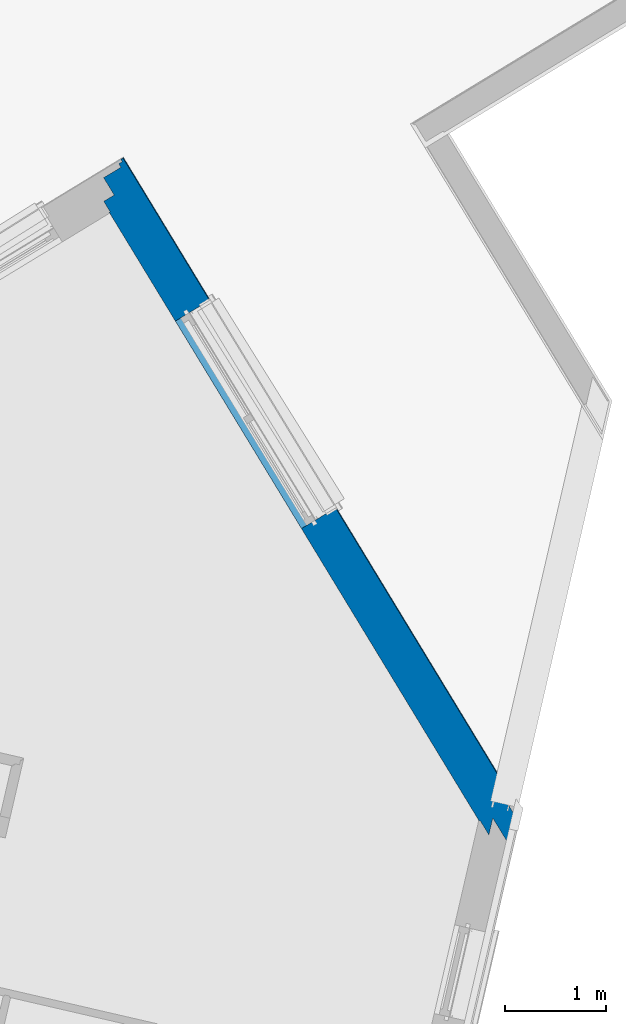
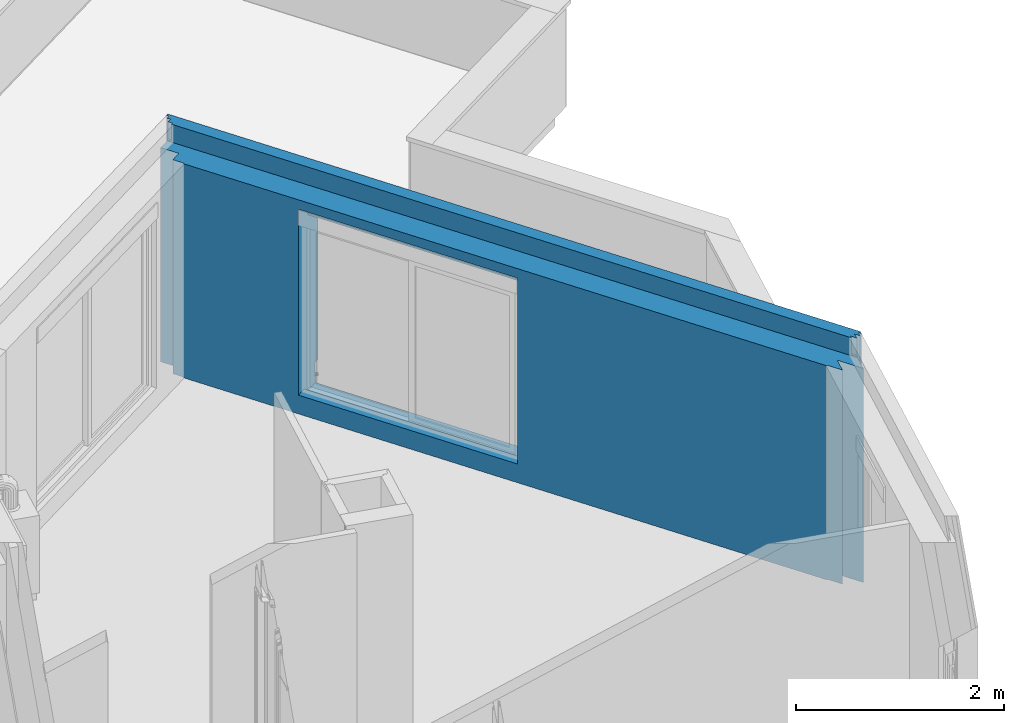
# One storey, part 33 of 91: 1 wall, 1 opening.
"""IFC2X3 building model written with IfcOpenShell, lengths in metres."""

import ifcopenshell
import ifcopenshell.guid

model = None  # the IFC model being written
_history = None  # IfcOwnerHistory: only IFC2X3 demands one
_inside = {}  # id of a spatial element -> (the spatial element, [elements in it])
_under = {}  # id of a project, library or spatial element -> (it, [spatial elements below it])
_declared = {}  # id of a project -> (the project, [libraries it declares])
_typed = {}  # id of a type object -> (the type object, [elements of that type])
_made_of = {}  # id of a material, layer set ... -> (it, [elements and type objects made of it])


def new_model(schema):
    """Start an empty IFC model of exactly this schema.

    Asked for "IFC4X3", IfcOpenShell would pick the latest addendum, in which some entities
    have other attributes; the version numbers below select the first issue.
    IFC2X3 requires an IfcOwnerHistory on every rooted entity: one is made here for all.
    """
    global model, _history
    if schema == "IFC4X3":
        model = ifcopenshell.file(schema_version=(4, 3, 0, 0))
    else:
        model = ifcopenshell.file(schema=schema)
    _inside.clear()
    _under.clear()
    _declared.clear()
    _typed.clear()
    _made_of.clear()
    _history = None
    if model.schema == "IFC2X3":
        org = make("IfcOrganization", Name="unknown")
        user = make(
            "IfcPersonAndOrganization",
            ThePerson=make("IfcPerson", FamilyName="unknown"),
            TheOrganization=org,
        )
        app = make(
            "IfcApplication",
            ApplicationDeveloper=org,
            Version="unknown",
            ApplicationFullName="unknown",
            ApplicationIdentifier="unknown",
        )
        _history = make(
            "IfcOwnerHistory",
            OwningUser=user,
            OwningApplication=app,
            ChangeAction="ADDED",
            CreationDate=0,
        )
    return model


def make(cls, **values):
    """One entity of the class cls with the attributes given. An attribute that is None is left unset."""
    return model.create_entity(
        cls, **{name: value for name, value in values.items() if value is not None}
    )


def entity(cls, *values):
    """Any entity or typed value of the class cls, its attributes in the order of the schema. None: left unset."""
    e = model.create_entity(cls)
    for i, value in enumerate(values):
        if value is not None:
            e[i] = value
    return e


def rooted(cls, **values):
    """An entity with a GlobalId (a new one), such as an element, a storey or a relation."""
    return make(cls, GlobalId=ifcopenshell.guid.new(), OwnerHistory=_history, **values)


def si_unit(unit_type, name, prefix=None):
    """IfcSIUnit, for example si_unit("LENGTHUNIT", "METRE", prefix="MILLI")."""
    return make("IfcSIUnit", UnitType=unit_type, Prefix=prefix, Name=name)


def converted_unit(unit_type, name, factor, base, dimensions=None, offset=None):
    """IfcConversionBasedUnit, such as the inch: factor (a typed value) times the base unit."""
    return make(
        "IfcConversionBasedUnit"
        if offset is None
        else "IfcConversionBasedUnitWithOffset",
        ConversionOffset=offset,
        Dimensions=None
        if dimensions is None
        else entity("IfcDimensionalExponents", *dimensions),
        UnitType=unit_type,
        Name=name,
        ConversionFactor=make(
            "IfcMeasureWithUnit", ValueComponent=factor, UnitComponent=base
        ),
    )


def derived_unit(unit_type, elements):
    """IfcDerivedUnit: a product of units, each with its exponent."""
    return make(
        "IfcDerivedUnit",
        Elements=[
            make("IfcDerivedUnitElement", Unit=unit, Exponent=power)
            for unit, power in elements
        ],
        UnitType=unit_type,
    )


def money_unit(currency):
    """IfcMonetaryUnit."""
    return make("IfcMonetaryUnit", Currency=currency)


def assignment(units):
    """IfcUnitAssignment: the units of a project."""
    return None if units is None else make("IfcUnitAssignment", Units=units)


def point(xyz):
    """IfcCartesianPoint."""
    return None if xyz is None else make("IfcCartesianPoint", Coordinates=xyz)


def direction(xyz):
    """IfcDirection."""
    return None if xyz is None else make("IfcDirection", DirectionRatios=xyz)


def frame(location, z_axis=None, x_axis=None):
    """IfcAxis2Placement3D, a coordinate frame: its origin and axes. An axis left out is left unset."""
    return make(
        "IfcAxis2Placement3D",
        Location=point(location),
        Axis=direction(z_axis),
        RefDirection=direction(x_axis),
    )


def origin_with_axes():
    """The frame at (0, 0, 0) with the z axis (0, 0, 1) and the x axis (1, 0, 0) written out."""
    return frame((0.0, 0.0, 0.0), z_axis=(0.0, 0.0, 1.0), x_axis=(1.0, 0.0, 0.0))


def place(relative_to, where):
    """IfcLocalPlacement: puts the frame where relative to a parent placement (None: the world)."""
    return make(
        "IfcLocalPlacement", PlacementRelTo=relative_to, RelativePlacement=where
    )


def context(
    kind, dimensions, precision=None, world=None, true_north=None, identifier=None
):
    """IfcGeometricRepresentationContext, for example the 3D "Model" context."""
    return make(
        "IfcGeometricRepresentationContext",
        ContextIdentifier=identifier,
        ContextType=kind,
        CoordinateSpaceDimension=dimensions,
        Precision=precision,
        WorldCoordinateSystem=world,
        TrueNorth=true_north,
    )


def subcontext(parent, identifier, kind, view, scale=None):
    """IfcGeometricRepresentationSubContext, for example "Body" below "Model"."""
    return make(
        "IfcGeometricRepresentationSubContext",
        ContextIdentifier=identifier,
        ContextType=kind,
        ParentContext=parent,
        TargetScale=scale,
        TargetView=view,
    )


def project(units=None, contexts=None):
    """IfcProject with its units and contexts."""
    return rooted(
        "IfcProject",
        Name="project",
        RepresentationContexts=contexts,
        UnitsInContext=assignment(units),
    )


def spatial(cls, under=None, at=None, **own):
    """A site, building, storey or space (cls), placed at a placement, below another one or the project."""
    s = rooted(cls, ObjectPlacement=at, **own)
    if under is not None:
        _under.setdefault(under.id(), (under, []))[1].append(s)
    return s


def faces_of(points, faces, orient=None, outer=None):
    """IfcFace entities. A face is a list of loops; a loop is a list of indices into points, from 0.

    orient and outer hold one flag for each loop. By default every Orientation is true, the
    first loop of a face is its IfcFaceOuterBound and the others are IfcFaceBound.
    """
    made = []
    for i, loops in enumerate(faces):
        bounds = []
        for j, loop in enumerate(loops):
            is_outer = j == 0 if outer is None else outer[i][j]
            bounds.append(
                make(
                    "IfcFaceOuterBound" if is_outer else "IfcFaceBound",
                    Bound=make("IfcPolyLoop", Polygon=[points[k] for k in loop]),
                    Orientation=True if orient is None else orient[i][j],
                )
            )
        made.append(make("IfcFace", Bounds=bounds))
    return made


def faceted_brep(points, faces, orient=None, outer=None, voids=None):
    """IfcFacetedBrep: a solid bounded by flat faces; with voids (closed shells), ...WithVoids."""
    shared = [point(p) for p in points]
    hull = make("IfcClosedShell", CfsFaces=faces_of(shared, faces, orient, outer))
    if voids is None:
        return make("IfcFacetedBrep", Outer=hull)
    return make(
        "IfcFacetedBrepWithVoids",
        Outer=hull,
        Voids=[
            make(cls, CfsFaces=faces_of(shared, fs, o, b)) for cls, fs, o, b in voids
        ],
    )


def shape(context_of_items, identifier, shape_type, items):
    """IfcShapeRepresentation: the items that make up one representation, for example the "Body"."""
    return make(
        "IfcShapeRepresentation",
        ContextOfItems=context_of_items,
        RepresentationIdentifier=identifier,
        RepresentationType=shape_type,
        Items=items,
    )


def material(Name=None, Category=None):
    """IfcMaterial."""
    return make("IfcMaterial", Name=Name, Category=Category)


def material_list(materials):
    """IfcMaterialList."""
    return make("IfcMaterialList", Materials=materials)


def made_of(thing, what):
    """Note that an element or type object is made of a material, layer set ...; save() writes the relation."""
    if what is not None:
        _made_of.setdefault(what.id(), (what, []))[1].append(thing)
    return thing


def type_object(cls, material=None, **own):
    """A type object (cls), such as IfcWallType, which elements share."""
    return made_of(rooted(cls, **own), material)


def element(
    cls,
    number,
    at=None,
    inside=None,
    cuts=None,
    type_object=None,
    material=None,
    context=None,
    identifier="Body",
    shape_type=None,
    held_by="IfcProductDefinitionShape",
    body=None,
    shapes=None,
    **own,
):
    """One element of the class cls, such as IfcWall. Its Tag is "e" and its number.

    at: its placement. inside: the storey or other place that contains it. cuts: it is an
    opening in that element (IfcRelVoidsElement). A single representation is given by context,
    identifier, shape_type and body (its items); several are given by shapes. held_by: the class
    of the entity that holds the representations. save() writes the other relations.
    """
    e = rooted(cls, Tag="e%d" % number, ObjectPlacement=at, **own)
    if body is not None:
        shapes = [shape(context, identifier, shape_type, body)]
    if shapes is not None:
        e.Representation = make(held_by, Representations=shapes)
    if inside is not None:
        _inside.setdefault(inside.id(), (inside, []))[1].append(e)
    if cuts is not None:
        rooted(
            "IfcRelVoidsElement", RelatingBuildingElement=cuts, RelatedOpeningElement=e
        )
    if type_object is not None:
        _typed.setdefault(type_object.id(), (type_object, []))[1].append(e)
    return made_of(e, material)


def aggregate(whole, parts):
    """IfcRelAggregates: a whole, such as a stair, and the parts it consists of."""
    return rooted("IfcRelAggregates", RelatingObject=whole, RelatedObjects=parts)


def save(model, path):
    """Write the relations noted so far, then the file.

    IfcRelAggregates (storeys below a building ...), IfcRelContainedInSpatialStructure (elements
    in a storey), IfcRelDefinesByType, IfcRelAssociatesMaterial and IfcRelDeclares: one each for
    every whole, place, type object, material and project.
    """
    for whole, parts in _under.values():
        aggregate(whole, parts)
    for where, things in _inside.values():
        rooted(
            "IfcRelContainedInSpatialStructure",
            RelatedElements=things,
            RelatingStructure=where,
        )
    for kind, things in _typed.values():
        rooted("IfcRelDefinesByType", RelatedObjects=things, RelatingType=kind)
    for what, things in _made_of.values():
        rooted("IfcRelAssociatesMaterial", RelatedObjects=things, RelatingMaterial=what)
    for by, libraries in _declared.values():
        rooted("IfcRelDeclares", RelatingContext=by, RelatedDefinitions=libraries)
    model.write(path)


model = new_model("IFC2X3")

# Units and contexts
model_context = context("Model", 3, precision=1e-05, world=origin_with_axes(), true_north=direction((0.0, 1.0)))
body_context = subcontext(model_context, "Body", "Model", "MODEL_VIEW")
ifc_project = project(units=[si_unit("LENGTHUNIT", "METRE"), si_unit("AREAUNIT", "SQUARE_METRE"), si_unit("VOLUMEUNIT", "CUBIC_METRE"), converted_unit("PLANEANGLEUNIT", "DEGREE", entity("IfcPlaneAngleMeasure", 0.0174532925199), si_unit("PLANEANGLEUNIT", "RADIAN"), dimensions=[0, 0, 0, 0, 0, 0, 0]), si_unit("SOLIDANGLEUNIT", "STERADIAN"), money_unit("EUR"), converted_unit("TIMEUNIT", "Year", entity("IfcTimeMeasure", 31556926.0), si_unit("TIMEUNIT", "SECOND"), dimensions=[0, 0, 1, 0, 0, 0, 0]), si_unit("MASSUNIT", "GRAM", prefix="KILO"), si_unit("THERMODYNAMICTEMPERATUREUNIT", "DEGREE_CELSIUS"), si_unit("LUMINOUSINTENSITYUNIT", "LUMEN"), si_unit("ENERGYUNIT", "JOULE", prefix="MEGA"), derived_unit("THERMALCONDUCTANCEUNIT", [(si_unit("POWERUNIT", "WATT"), 1), (si_unit("LENGTHUNIT", "METRE"), -1), (si_unit("THERMODYNAMICTEMPERATUREUNIT", "KELVIN"), -1)]), derived_unit("SPECIFICHEATCAPACITYUNIT", [(si_unit("ENERGYUNIT", "JOULE"), 1), (si_unit("MASSUNIT", "GRAM", prefix="KILO"), -1), (si_unit("THERMODYNAMICTEMPERATUREUNIT", "KELVIN"), -1)]), derived_unit("MASSDENSITYUNIT", [(si_unit("MASSUNIT", "GRAM", prefix="KILO"), 1), (si_unit("VOLUMEUNIT", "CUBIC_METRE"), -1)])], contexts=[model_context])

# Site, building, storey
site_placement = place(None, origin_with_axes())
site = spatial("IfcSite", under=ifc_project, at=site_placement, Name="Site", CompositionType="ELEMENT")
building_placement = place(site_placement, origin_with_axes())
building = spatial("IfcBuilding", under=site, at=building_placement, Name="Bâtiment", CompositionType="ELEMENT")
storey_placement = place(building_placement, frame((0.0, 0.0, 5.44), z_axis=(0.0, 0.0, 1.0), x_axis=(1.0, 0.0, 0.0)))
storey = spatial("IfcBuildingStorey", under=building, at=storey_placement, Name="R+2", CompositionType="ELEMENT", Elevation=5.44)

# Wall, opening
ifc_material_1 = material(Name="Finition int - Plaque de plâtre")
ifc_material_2 = material(Name="Isolation - Polystyrène extrudé")
ifc_material_3 = material(Name="Bloc ELITHERM")
ifc_material_4 = material(Name="Isolation - Polystyrène expansé")
ifc_material_5 = material(Name="Mortier")
ifc_material_6 = material(Name="Béton cellulaire")
ifc_material_7 = material(Name="Etanchéité - Bitume")
ifc_material_8 = material(Name="Bois - Lattage")
ifc_material_9 = material(Name="Finition ext - Bardage bois")
ifc_material_10 = material(Name="Métal - Aluminium")
ifc_material_list = material_list([ifc_material_1, ifc_material_2, ifc_material_3, ifc_material_4, ifc_material_5, ifc_material_6, ifc_material_7, ifc_material_8, ifc_material_9, ifc_material_10])
wall_type = type_object("IfcWallType", Name="Mur ALKERN + planelle 21 BARDAGE TERRASSE 403 x 2720", PredefinedType="USERDEFINED")
wall_placement = place(storey_placement, frame((1.48840599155, 13.9724829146, 0.0), z_axis=(0.0, 0.0, 1.0), x_axis=(-0.51938634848, 0.854539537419, 0.0)))
wall = element("IfcWall", 1, at=wall_placement, inside=storey, type_object=wall_type, material=ifc_material_list, Name="Mue bloc ALKERN isolé", ObjectType="SOLIDWALL", context=body_context, shape_type="Brep", body=[
    faceted_brep([(0.091168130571, 0.399999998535, 0.0), (7.13167306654, 0.399999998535, -3.1968383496e-10), (7.13167306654, 0.399999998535, 0.109999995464), (7.13167306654, 0.399999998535, 0.19999999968), (7.13167306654, 0.399999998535, 0.229999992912), (7.13167306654, 0.399999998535, 0.399999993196), (7.13167306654, 0.399999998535, 2.51000000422), (0.091168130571, 0.399999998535, 2.51000000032), (0.091168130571, 0.399999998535, 0.399999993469), (0.091168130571, 0.399999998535, 0.229999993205), (0.091168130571, 0.399999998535, 0.200000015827), (0.091168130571, 0.399999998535, 0.110000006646), (5.87127902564, 0.399999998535, 2.4), (5.87127902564, 0.399999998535, 2.22), (5.87127902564, 0.399999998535, 0.22), (3.47127902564, 0.399999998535, 0.22), (3.47127902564, 0.399999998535, 2.22), (3.47127902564, 0.399999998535, 2.4), (0.080915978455, 0.410000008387, 0.0), (7.13167306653, 0.410000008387, -3.1968383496e-10), (7.13167306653, 0.410000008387, 0.109999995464), (7.13167306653, 0.410000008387, 0.19999999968), (7.13167306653, 0.410000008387, 0.229999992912), (7.13167306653, 0.410000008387, 0.399999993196), (7.13167306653, 0.410000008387, 2.51000000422), (0.080915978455, 0.410000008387, 2.51000000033), (0.080915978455, 0.410000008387, 0.399999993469), (0.080915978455, 0.410000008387, 0.229999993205), (0.080915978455, 0.410000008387, 0.200000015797), (0.080915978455, 0.410000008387, 0.110000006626), (5.87127902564, 0.410000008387, 2.4), (5.87127902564, 0.410000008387, 2.22), (5.87127902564, 0.410000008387, 0.22), (3.47127902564, 0.410000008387, 0.22), (3.47127902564, 0.410000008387, 2.22), (3.47127902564, 0.410000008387, 2.4)], [[[0, 1, 2, 3, 4, 5, 6, 7, 8, 9, 10, 11], [12, 13, 14, 15, 16, 17]], [[18, 19, 1, 0]], [[2, 1, 19, 20]], [[3, 2, 20, 21]], [[4, 3, 21, 22]], [[5, 4, 22, 23]], [[6, 5, 23, 24]], [[7, 6, 24, 25]], [[7, 25, 26, 8]], [[26, 27, 9, 8]], [[27, 28, 10, 9]], [[28, 29, 11, 10]], [[29, 18, 0, 11]], [[13, 12, 30, 31]], [[13, 31, 32, 14]], [[14, 32, 33, 15]], [[34, 16, 15, 33]], [[17, 16, 34, 35]], [[12, 17, 35, 30]], [[21, 20, 19, 18, 29, 28, 27, 26, 25, 24, 23, 22], [35, 34, 33, 32, 31, 30]]]),
    faceted_brep([(0.0423353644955, 0.279999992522, 0.229999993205), (0.0423353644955, 0.279999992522, 0.200000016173), (0.0423353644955, 0.279999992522, 0.110000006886), (0.0423353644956, 0.279999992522, 0.0), (7.25167309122, 0.279999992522, -3.1968383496e-10), (7.25167309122, 0.279999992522, 0.109999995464), (7.25167309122, 0.279999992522, 0.19999999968), (7.25167309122, 0.279999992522, 0.229999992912), (7.25167309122, 0.279999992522, 0.399999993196), (7.25167309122, 0.279999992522, 2.50999999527), (0.0423353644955, 0.279999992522, 2.50999999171), (0.0423353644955, 0.279999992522, 0.399999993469), (5.87127902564, 0.279999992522, 0.16), (3.47127902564, 0.279999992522, 0.16), (3.47127902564, 0.279999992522, 0.22), (3.47127902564, 0.279999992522, 2.22), (3.47127902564, 0.279999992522, 2.4), (5.87127902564, 0.279999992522, 2.4), (5.87127902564, 0.279999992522, 2.22), (5.87127902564, 0.279999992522, 0.22), (-0.080690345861, 0.399999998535, 0.200000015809), (-0.080690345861, 0.399999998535, 0.229999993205), (-0.080690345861, 0.399999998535, 0.110000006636), (-0.080690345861, 0.399999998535, 0.0), (7.25167309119, 0.399999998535, -3.1968383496e-10), (7.25167309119, 0.399999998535, 0.109999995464), (7.25167309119, 0.399999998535, 0.19999999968), (7.25167309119, 0.399999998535, 0.229999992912), (7.25167309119, 0.399999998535, 0.399999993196), (7.25167309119, 0.399999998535, 2.50999999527), (-0.080690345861, 0.399999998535, 2.509999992), (-0.080690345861, 0.399999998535, 0.399999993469), (5.87127902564, 0.293311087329, 0.16), (3.47127902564, 0.293311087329, 0.16), (3.47127902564, 0.293311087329, 0.22), (3.47127902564, 0.399999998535, 0.22), (3.47127902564, 0.399999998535, 2.22), (3.47127902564, 0.399999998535, 2.4), (5.87127902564, 0.399999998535, 2.4), (5.87127902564, 0.399999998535, 2.22), (5.87127902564, 0.293311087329, 0.22), (5.87127902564, 0.399999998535, 0.22)], [[[0, 1, 2, 3, 4, 5, 6, 7, 8, 9, 10, 11], [12, 13, 14, 15, 16, 17, 18, 19]], [[20, 1, 0, 21]], [[22, 2, 1, 20]], [[23, 3, 2, 22]], [[24, 4, 3, 23]], [[4, 24, 25, 5]], [[5, 25, 26, 6]], [[6, 26, 27, 7]], [[7, 27, 28, 8]], [[8, 28, 29, 9]], [[9, 29, 30, 10]], [[30, 31, 11, 10]], [[21, 0, 11, 31]], [[13, 12, 32, 33]], [[34, 14, 13, 33]], [[14, 34, 35, 36, 15]], [[15, 36, 37, 16]], [[16, 37, 38, 17]], [[17, 38, 39, 18]], [[40, 19, 18, 39, 41]], [[12, 19, 40, 32]], [[29, 28, 27, 26, 25, 24, 23, 22, 20, 21, 31, 30], [41, 39, 38, 37, 36, 35]], [[40, 34, 33, 32]], [[34, 40, 41, 35]]]),
    faceted_brep([(-0.0390525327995, 0.0800000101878, 0.200000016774), (-0.0390525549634, 0.0800000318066, 0.110000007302), (7.45167305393, 0.0800000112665, 0.109999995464), (7.45167308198, 0.0800000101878, 0.19999999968), (7.4516730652, 0.0800000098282, 0.230000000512), (7.45167308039, 0.0800000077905, 0.399999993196), (7.45167304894, 0.0799999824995, 2.50999999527), (-0.0390525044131, 0.0799999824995, 2.50999999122), (-0.0390525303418, 0.0800000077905, 0.399999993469), (-0.0390525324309, 0.0800000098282, 0.229999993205), (0.333309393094, 0.0799999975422, 1.2550000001), (0.333309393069, 0.0799999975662, 1.25299999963), (0.333309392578, 0.0799999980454, 1.21302453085), (0.333309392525, 0.0799999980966, 1.20874689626), (0.333309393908, 0.0799999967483, 1.205), (0.0696153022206, 0.0799999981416, 1.205), (0.0696153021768, 0.0799999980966, 1.20874689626), (0.0696153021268, 0.0799999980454, 1.21302453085), (0.0696153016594, 0.0799999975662, 1.25299999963), (0.0696153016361, 0.0799999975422, 1.2550000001), (5.87127902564, 0.0800000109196, 0.16), (3.47127902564, 0.080000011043, 0.16), (3.47127902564, 0.0800000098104, 0.22), (3.47127902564, 0.0799999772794, 2.22), (5.87127902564, 0.079999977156, 2.22), (5.87127902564, 0.080000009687, 0.22), (-0.244095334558, 0.279999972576, 0.110000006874), (-0.244095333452, 0.279999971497, 0.200000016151), (0.276021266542, 0.0800000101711, 0.0), (0.276021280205, 0.0800000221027, 0.0189765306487), (0.276021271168, 0.0800000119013, 0.0570419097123), (0.276021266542, 0.0800000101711, 0.1), (7.45167307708, 0.0800000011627, 0.1), (-0.0390525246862, 0.080000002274, 0.0), (7.45167305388, 0.280000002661, 0.109999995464), (7.45167308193, 0.279999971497, 0.19999999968), (7.45167306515, 0.279999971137, 0.230000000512), (7.45167308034, 0.2799999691, 0.399999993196), (7.4516730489, 0.279999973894, 2.50999999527), (7.45167304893, 0.148000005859, 2.50999999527), (-0.10876709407, 0.148000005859, 2.50999999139), (-0.24409533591, 0.279999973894, 2.50999999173), (-0.244095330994, 0.2799999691, 0.399999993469), (-0.244095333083, 0.279999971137, 0.229999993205), (0.198179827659, 0.211806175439, 1.25299999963), (0.198179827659, 0.211806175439, 1.2550000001), (0.198179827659, 0.211806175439, 1.21302453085), (0.198179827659, 0.211806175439, 1.20874689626), (0.198179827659, 0.211806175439, 1.205), (0.194649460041, 0.208186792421, 1.20874689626), (0.192184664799, 0.205659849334, 1.21136286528), (0.192887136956, 0.206380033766, 1.21302453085), (0.196917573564, 0.210512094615, 1.21302453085), (0.196917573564, 0.210512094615, 1.25299999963), (5.87127902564, 0.279999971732, 0.16), (3.47127902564, 0.279999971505, 0.16), (3.47127902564, 0.252311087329, 0.22), (3.47127902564, 0.279999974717, 0.22), (3.47127902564, 0.252311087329, 2.22), (3.47127902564, 0.222311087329, 2.22), (5.87127902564, 0.222311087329, 2.22), (5.87127902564, 0.252311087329, 0.22), (5.87127902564, 0.252311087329, 2.22), (5.87127902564, 0.279999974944, 0.22), (-0.24409533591, 0.279999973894, 0.0), (7.4516730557, 0.280000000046, 0.1), (7.45165290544, 0.279999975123, 0.1), (7.45165290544, 0.279999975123, 0.0), (5.87127902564, 0.279999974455, 2.22), (5.87127902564, 0.279999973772, 2.4), (3.47127902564, 0.279999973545, 2.4), (3.47127902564, 0.279999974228, 2.22), (0.303591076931, 0.0799999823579, 0.0), (0.303591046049, 0.0800000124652, 0.0100000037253), (0.303591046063, 0.080000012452, 0.0111013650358), (0.129240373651, 0.223170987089, 0.0189765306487), (0.129240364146, 0.223170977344, 0.0570419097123), (0.30535844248, 0.0800000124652, 0.0100000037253), (0.305358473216, 0.0799999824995, 0.0), (7.45167307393, 0.0799999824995, -3.1968383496e-10), (0.277518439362, 0.0800000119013, 0.0570419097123), (0.277518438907, 0.080000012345, 0.0200236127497), (0.28123491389, 0.0800000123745, 0.0189765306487), (0.305358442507, 0.080000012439, 0.0121799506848), (7.4516710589, 0.100010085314, 0.0), (0.143543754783, 0.237835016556, 0.0), (0.142682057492, 0.236951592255, 0.0), (0.196917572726, 0.210512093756, 1.20874689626), (3.47127902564, 0.222311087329, 2.4), (5.87127902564, 0.222311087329, 2.4), (7.4516710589, 0.100010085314, 0.1), (0.142682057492, 0.236951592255, 0.0100000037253), (0.142682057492, 0.236951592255, 0.0111013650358), (0.131782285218, 0.225776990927, 0.0189765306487), (0.129970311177, 0.223919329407, 0.0200236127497), (0.129970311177, 0.223919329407, 0.0570419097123), (0.143543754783, 0.237835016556, 0.0100000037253), (0.143543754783, 0.237835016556, 0.0121799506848)], [[[0, 1, 2, 3, 4, 5, 6, 7, 8, 9], [10, 11, 12, 13, 14, 15, 16, 17, 18, 19], [20, 21, 22, 23, 24, 25]], [[26, 1, 0, 27]], [[28, 29, 30, 31, 32, 2, 1, 33]], [[34, 35, 3, 2]], [[35, 36, 4, 3]], [[4, 36, 37, 5]], [[6, 5, 37, 38, 39]], [[6, 39, 40, 7]], [[7, 40, 41, 42, 8]], [[43, 9, 8, 42]], [[43, 27, 0, 9]], [[44, 11, 10, 45]], [[11, 44, 46, 12]], [[46, 47, 13, 12]], [[48, 14, 13, 47]], [[48, 15, 14]], [[15, 48, 49, 16]], [[17, 16, 49, 50, 51]], [[18, 17, 51, 52, 53]], [[45, 19, 18, 53, 44]], [[19, 45, 10]], [[21, 20, 54, 55]], [[56, 22, 21, 55, 57]], [[22, 56, 58, 59, 23]], [[60, 24, 23, 59]], [[61, 25, 24, 60, 62]], [[20, 25, 61, 63, 54]], [[26, 64, 33, 1]], [[64, 26, 27, 43, 42, 41, 38, 37, 36, 35, 34, 65, 66, 67], [54, 63, 68, 69, 70, 71, 57, 55]], [[28, 72, 73, 74, 29]], [[75, 76, 30, 29]], [[77, 78, 79, 32, 31, 30, 80, 81, 82, 83]], [[2, 32, 34]], [[33, 64, 67, 84, 79, 78, 85, 86, 72, 28]], [[39, 38, 41, 40]], [[53, 52, 46, 44]], [[52, 87, 47, 46]], [[87, 49, 48, 47]], [[50, 49, 87, 51]], [[87, 52, 51]], [[56, 57, 71, 58]], [[71, 70, 88, 59, 58]], [[59, 88, 89, 60]], [[89, 69, 68, 62, 60]], [[63, 61, 62, 68]], [[65, 34, 90]], [[66, 65, 90]], [[67, 66, 90, 84]], [[69, 89, 88, 70]], [[86, 91, 73, 72]], [[91, 92, 74, 73]], [[92, 75, 29, 74]], [[76, 75, 93, 94, 95]], [[76, 95, 80, 30]], [[85, 78, 77, 96]], [[79, 84, 32]], [[95, 94, 81, 80]], [[94, 93, 82, 81]], [[93, 97, 83, 82]], [[83, 97, 96, 77]], [[34, 32, 90]], [[86, 85, 96, 91]], [[84, 90, 32]], [[97, 93, 75, 92, 91, 96]]]),
    faceted_brep([(7.40367306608, 0.148000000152, 2.72000000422), (-0.0400234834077, 0.147999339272, 2.72000000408), (-0.0195191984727, 0.127999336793, 2.7200000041), (7.40367306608, 0.128000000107, 2.72000000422), (7.40367306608, 0.148000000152, 2.52000000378), (-0.0400237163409, 0.148000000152, 2.51999999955), (-0.0195194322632, 0.128000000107, 2.51999999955), (7.40367306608, 0.128000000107, 2.52000000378)], [[[0, 1, 2, 3]], [[4, 5, 1, 0]], [[5, 6, 2, 1]], [[3, 2, 6, 7]], [[4, 0, 3, 7]], [[7, 6, 5, 4]]]),
    faceted_brep([(-0.108767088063, 0.148, 2.51999999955), (-0.0390525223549, 0.08, 2.51999999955), (7.4516730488, 0.08, 2.52000000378), (7.45167304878, 0.148, 2.52000000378), (-0.0390525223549, 0.08, 2.50999999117), (-0.108767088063, 0.148, 2.50999999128), (7.45167304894, 0.08, 2.50999999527), (7.45167304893, 0.148, 2.50999999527)], [[[0, 1, 2, 3]], [[4, 1, 0, 5]], [[1, 4, 6, 2]], [[3, 2, 6, 7]], [[5, 0, 3, 7]], [[4, 5, 7, 6]]]),
    faceted_brep([(-0.0882627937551, 0.127999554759, 2.7200000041), (-0.0390525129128, 0.0799995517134, 2.72000000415), (7.45167304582, 0.08, 2.72000000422), (7.4516730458, 0.127999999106, 2.72000000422), (-0.0390525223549, 0.08, 2.51999999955), (-0.0882628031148, 0.127999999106, 2.51999999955), (7.4516730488, 0.08, 2.52000000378), (7.45167304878, 0.127999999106, 2.52000000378)], [[[0, 1, 2, 3]], [[4, 1, 0, 5]], [[1, 4, 6, 2]], [[3, 2, 6, 7]], [[5, 0, 3, 7]], [[4, 5, 7, 6]]]),
    faceted_brep([(5.87127902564, 0.0700000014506, 0.16), (3.47127902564, 0.0700000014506, 0.16), (3.47127902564, 0.0700000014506, 0.22), (3.47127902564, 0.0700000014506, 0.229999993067), (-0.086086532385, 0.0700000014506, 0.229999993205), (-0.086086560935, 0.0700000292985, 0.200000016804), (-0.086086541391, 0.0700000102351, 0.110000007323), (-0.0201635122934, 0.0700000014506, 0.109999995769), (-0.0201635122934, 0.0700000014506, 0.2), (-0.000157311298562, 0.070000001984, 0.2), (0.286273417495, 0.0700000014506, 0.2), (0.307755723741, 0.0700000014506, 0.2), (0.307755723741, 0.0700000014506, 0.109999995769), (7.46167306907, 0.0700000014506, 0.110000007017), (7.46167304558, 0.0700000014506, 0.200000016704), (7.46167304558, 0.0700000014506, 0.229999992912), (5.87127902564, 0.0700000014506, 0.229999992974), (5.87127902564, 0.0700000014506, 0.22), (5.87127902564, 0.0800000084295, 0.16), (3.47127902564, 0.0800000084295, 0.16), (3.47127902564, 0.0800000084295, 0.22), (3.47127902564, 0.0799999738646, 0.229999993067), (-0.0963386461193, 0.0799999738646, 0.229999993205), (-0.0963386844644, 0.0800000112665, 0.200000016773), (-0.0963386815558, 0.0800000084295, 0.110000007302), (-0.0104094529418, 0.0800000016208, 0.109999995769), (-0.0104094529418, 0.0800000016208, 0.2), (0.276021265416, 0.0800000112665, 0.2), (0.297503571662, 0.0800000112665, 0.2), (0.297503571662, 0.0800000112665, 0.109999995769), (7.46167306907, 0.0800000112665, 0.110000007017), (7.46167304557, 0.0799999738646, 0.200000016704), (7.46167304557, 0.0799999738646, 0.229999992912), (5.87127902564, 0.0799999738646, 0.229999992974), (5.87127902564, 0.0800000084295, 0.22)], [[[0, 1, 2, 3, 4, 5, 6, 7, 8, 9, 10, 11, 12, 13, 14, 15, 16, 17]], [[1, 0, 18, 19]], [[20, 2, 1, 19]], [[2, 20, 21, 3]], [[21, 22, 4, 3]], [[4, 22, 23, 5]], [[23, 24, 6, 5]], [[24, 25, 7, 6]], [[7, 25, 26, 8]], [[26, 9, 8]], [[26, 27, 10, 9]], [[10, 27, 28, 11]], [[11, 28, 29, 12]], [[29, 30, 13, 12]], [[14, 13, 30, 31]], [[15, 14, 31, 32]], [[16, 15, 32, 33]], [[34, 17, 16, 33]], [[0, 17, 34, 18]], [[18, 34, 33, 32, 31, 30, 29, 28, 27, 26, 25, 24, 23, 22, 21, 20, 19]]]),
    faceted_brep([(5.87127902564, 0.0399999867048, 2.22), (5.87127902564, 0.0399999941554, 0.399999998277), (7.49167306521, 0.0399999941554, 0.39999999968), (7.49167306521, 0.0399999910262, 2.50999999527), (7.49167306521, 0.0399999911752, 2.52000000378), (7.49167306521, 0.0399999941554, 2.72000000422), (-0.0553303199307, 0.0399997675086, 2.7200000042), (-0.0553300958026, 0.0399999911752, 2.51999999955), (-0.0553300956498, 0.0399999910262, 2.5099999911), (-0.055330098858, 0.0399999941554, 0.399999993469), (0.030599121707, 0.0399999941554, 0.399999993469), (0.0305990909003, 0.0400000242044, 1.24), (0.030599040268, 0.0399999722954, 1.25299999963), (0.030599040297, 0.0399999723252, 1.2550000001), (0.37431798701, 0.0399999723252, 1.2550000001), (0.37431798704, 0.0399999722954, 1.25299999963), (0.374317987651, 0.0399999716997, 1.21302453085), (0.374317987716, 0.039999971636, 1.20874689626), (0.374317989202, 0.0399999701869, 1.205), (0.317029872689, 0.0399999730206, 1.205), (0.317029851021, 0.0399999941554, 0.399999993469), (3.47127902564, 0.0399999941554, 0.3999999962), (3.47127902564, 0.0399999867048, 2.22), (5.87127902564, 0.0800000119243, 2.22), (5.87127902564, 0.0799999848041, 0.399999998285), (5.87127902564, 0.0750000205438, 0.399999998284), (7.4916730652, 0.0750000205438, 0.39999999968), (7.4916730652, 0.0799999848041, 0.39999999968), (7.4916730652, 0.0800000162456, 2.50999999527), (7.4916730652, 0.0800000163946, 2.52000000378), (7.4916730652, 0.0800000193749, 2.72000000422), (-0.0963389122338, 0.0799997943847, 2.72000000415), (-0.0963386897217, 0.0800000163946, 2.51999999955), (-0.096338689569, 0.0800000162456, 2.50999999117), (-0.0963386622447, 0.0799999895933, 0.399999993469), (-0.0912126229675, 0.0750000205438, 0.399999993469), (-0.00528340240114, 0.0750000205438, 0.399999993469), (-0.010409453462, 0.0800000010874, 0.399999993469), (-0.010409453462, 0.0800000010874, 1.24), (0.0696153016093, 0.0799999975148, 1.25299999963), (0.0696153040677, 0.0800000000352, 1.24), (0.0696153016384, 0.0799999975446, 1.2550000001), (0.333309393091, 0.0799999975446, 1.2550000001), (0.333309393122, 0.0799999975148, 1.25299999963), (0.333309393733, 0.0799999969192, 1.21302453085), (0.333309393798, 0.0799999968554, 1.20874689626), (0.333309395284, 0.0799999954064, 1.205), (0.276021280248, 0.0799999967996, 1.205), (0.276021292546, 0.0799999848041, 0.399999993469), (0.281147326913, 0.0750000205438, 0.399999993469), (3.47127902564, 0.0750000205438, 0.399999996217), (3.47127902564, 0.0799999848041, 0.399999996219), (3.47127902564, 0.0800000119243, 2.22)], [[[0, 1, 2, 3, 4, 5, 6, 7, 8, 9, 10, 11, 12, 13, 14, 15, 16, 17, 18, 19, 20, 21, 22]], [[1, 0, 23, 24, 25]], [[1, 25, 26, 2]], [[3, 2, 26, 27, 28]], [[29, 4, 3, 28]], [[30, 5, 4, 29]], [[31, 6, 5, 30]], [[7, 6, 31, 32]], [[7, 32, 33, 8]], [[33, 34, 35, 9, 8]], [[9, 35, 36, 10]], [[10, 36, 37, 38, 11]], [[39, 12, 11, 40]], [[13, 12, 39, 41]], [[14, 13, 41, 42]], [[15, 14, 42, 43]], [[15, 43, 44, 16]], [[16, 44, 45, 17]], [[17, 45, 46, 18]], [[18, 46, 47, 19]], [[47, 48, 49, 20, 19]], [[50, 21, 20, 49]], [[22, 21, 50, 51, 52]], [[0, 22, 52, 23]], [[52, 51, 48, 47, 46, 45, 44, 43, 42, 41, 39, 40, 38, 37, 34, 33, 32, 31, 30, 29, 28, 27, 24, 23]], [[25, 24, 27, 26]], [[35, 34, 37, 36]], [[38, 40, 11]], [[51, 50, 49, 48]]]),
    faceted_brep([(5.87127902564, 0.015, 2.22), (5.87127902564, 0.015, 0.399999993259), (7.51667346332, 0.015, 0.399999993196), (7.51667260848, 0.015, 2.72000000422), (-0.0655036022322, 0.015, 2.72), (-0.0655036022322, 0.015, 0.399999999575), (0.056229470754, 0.015, 0.399999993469), (0.056229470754, 0.015, 1.205), (0.0062139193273, 0.015, 1.205), (0.0062139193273, 0.015, 1.20874689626), (0.00621391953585, 0.0150000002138, 1.20876321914), (0.00621391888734, 0.0149999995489, 1.21117044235), (0.0062139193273, 0.015, 1.21302453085), (0.0062139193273, 0.015, 1.25299999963), (0.0062139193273, 0.015, 1.2550000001), (0.399948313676, 0.015, 1.2550000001), (0.399948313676, 0.015, 1.25299999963), (0.399948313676, 0.015, 1.21302453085), (0.399948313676, 0.015, 1.20874689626), (0.399948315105, 0.0149999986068, 1.205), (0.342660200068, 0.015, 1.205), (0.342660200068, 0.015, 0.399999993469), (3.47127902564, 0.015, 0.39999999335), (3.47127902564, 0.015, 2.22), (5.87127902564, 0.04, 2.22), (5.87127902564, 0.04, 0.399999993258), (7.51667346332, 0.04, 0.399999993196), (7.51667260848, 0.04, 2.72000000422), (-0.0911339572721, 0.04, 2.72), (-0.0911339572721, 0.04, 0.399999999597), (0.0305991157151, 0.04, 0.399999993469), (0.0305990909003, 0.0400000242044, 1.205), (0.0305990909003, 0.0400000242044, 1.20874689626), (0.00866333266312, 0.0175111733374, 1.21136286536), (0.0305990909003, 0.0400000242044, 1.21302453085), (0.00796086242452, 0.0167909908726, 1.21302453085), (0.0305990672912, 0.04, 1.25299999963), (0.0305990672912, 0.04, 1.2550000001), (0.374317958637, 0.04, 1.2550000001), (0.374317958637, 0.04, 1.25299999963), (0.374317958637, 0.04, 1.21302453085), (0.374317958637, 0.04, 1.20874689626), (0.374317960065, 0.0399999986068, 1.205), (0.317029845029, 0.04, 1.205), (0.317029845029, 0.04, 0.399999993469), (3.47127902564, 0.04, 0.399999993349), (3.47127902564, 0.04, 2.22)], [[[0, 1, 2, 3, 4, 5, 6, 7, 8, 9, 10, 11, 12, 13, 14, 15, 16, 17, 18, 19, 20, 21, 22, 23]], [[1, 0, 24, 25]], [[1, 25, 26, 2]], [[26, 27, 3, 2]], [[27, 28, 4, 3]], [[29, 5, 4, 28]], [[30, 6, 5, 29]], [[31, 7, 6, 30]], [[31, 8, 7]], [[32, 9, 8, 31]], [[33, 10, 9, 32, 34, 35]], [[33, 35, 11, 10]], [[11, 35, 12]], [[13, 12, 35, 34, 36]], [[14, 13, 36, 37]], [[15, 14, 37, 38]], [[16, 15, 38, 39]], [[16, 39, 40, 17]], [[17, 40, 41, 18]], [[18, 41, 42, 19]], [[19, 42, 43, 20]], [[20, 43, 44, 21]], [[45, 22, 21, 44]], [[23, 22, 45, 46]], [[0, 23, 46, 24]], [[46, 45, 44, 43, 42, 41, 40, 39, 38, 37, 36, 34, 32, 31, 30, 29, 28, 27, 26, 25, 24]]]),
    faceted_brep([(5.87127902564, 0.0123110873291, 0.22), (5.87127902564, 0.00731108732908, 0.22), (5.87127902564, 0.00731108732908, 0.235000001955), (5.87127902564, 0.075, 0.235000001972), (5.87127902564, 0.075, 0.39999999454), (5.87127902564, 0.08, 0.39999999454), (5.87127902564, 0.08, 0.23), (5.87127902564, 0.0700000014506, 0.230000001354), (5.87127902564, 0.0123110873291, 0.23), (5.87127902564, 0.00731108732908, 0.200000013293), (5.87127902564, 0.0123110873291, 0.200000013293), (7.52436197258, 0.00731108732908, 0.200000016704), (7.52436195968, 0.00731108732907, 0.235000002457), (7.52436195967, 0.075, 0.235000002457), (7.45667307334, 0.075, 0.235000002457), (7.45667301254, 0.075, 0.399999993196), (7.45667301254, 0.08, 0.399999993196), (7.45667307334, 0.08, 0.235000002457), (7.52436195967, 0.08, 0.235000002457), (7.52436196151, 0.08, 0.23), (7.52436196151, 0.0700000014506, 0.230000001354), (7.52436196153, 0.0123110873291, 0.23), (7.52436197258, 0.0123110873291, 0.200000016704)], [[[0, 1, 2, 3, 4, 5, 6, 7, 8]], [[9, 1, 0, 10]], [[1, 9, 11, 12, 2]], [[12, 13, 14, 3, 2]], [[3, 14, 15, 4]], [[4, 15, 16, 5]], [[17, 18, 19, 6, 5, 16]], [[6, 19, 20, 7]], [[7, 20, 21, 8]], [[10, 0, 8, 21, 22]], [[9, 10, 22, 11]], [[11, 22, 21, 20, 19, 18, 13, 12]], [[18, 17, 14, 13]], [[14, 17, 16, 15]]]),
    faceted_brep([(3.47127902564, 0.00731108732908, 0.20000000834), (3.47127902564, 0.00731108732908, 0.22), (3.47127902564, 0.00731108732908, 0.235000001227), (-0.0576208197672, 0.00731108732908, 0.235000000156), (-0.0576208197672, 0.00731108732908, 0.200000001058), (3.47127902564, 0.0123110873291, 0.22), (3.47127902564, 0.0123110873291, 0.20000000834), (3.47127902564, 0.0123110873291, 0.23), (3.47127902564, 0.0700000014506, 0.230000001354), (3.47127902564, 0.08, 0.23), (3.47127902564, 0.08, 0.399999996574), (3.47127902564, 0.075, 0.399999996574), (3.47127902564, 0.075, 0.235000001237), (-0.127016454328, 0.075, 0.235000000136), (-0.127016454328, 0.075, 0.399999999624), (-0.132142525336, 0.08, 0.399999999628), (-0.132142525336, 0.08, 0.23), (-0.121890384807, 0.0700000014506, 0.230000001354), (-0.0627468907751, 0.0123110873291, 0.23), (-0.0627468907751, 0.0123110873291, 0.200000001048)], [[[0, 1, 2, 3, 4]], [[5, 1, 0, 6]], [[1, 5, 7, 8, 9, 10, 11, 12, 2]], [[12, 13, 3, 2]], [[14, 15, 16, 17, 18, 19, 4, 3, 13]], [[6, 0, 4, 19]], [[5, 6, 19, 18, 7]], [[7, 18, 17, 8]], [[8, 17, 16, 9]], [[9, 16, 15, 10]], [[10, 15, 14, 11]], [[11, 14, 13, 12]]]),
])
opening_placement = place(wall_placement, frame((4.67127902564, 0.0, 0.22), z_axis=(0.0, 0.0, 1.0), x_axis=(1.0, 0.0, 0.0)))
element("IfcOpeningElement", 2, at=opening_placement, cuts=wall, Name="MEN 71", context=body_context, shape_type="Brep", body=[
    faceted_brep([(1.2, 0.252311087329, 0.0), (-1.2, 0.252311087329, 0.0), (-1.2, 0.900000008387, 0.0), (1.2, 0.900000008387, 0.0), (1.2, 0.252311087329, 2.0), (-1.2, 0.252311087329, 2.0), (-1.2, 0.900000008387, 2.0), (1.2, 0.900000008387, 2.0)], [[[0, 1, 2, 3]], [[0, 4, 5, 1]], [[1, 5, 6, 2]], [[3, 2, 6, 7]], [[4, 0, 3, 7]], [[5, 4, 7, 6]]]),
    faceted_brep([(1.2, 0.252311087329, 0.0), (1.2, 0.252311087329, 2.0), (1.2, -0.395377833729, 2.0), (1.2, -0.395377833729, 0.0), (-1.2, 0.252311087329, 0.0), (-1.2, 0.252311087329, 2.0), (-1.2, -0.395377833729, 2.0), (-1.2, -0.395377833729, 0.0)], [[[0, 1, 2, 3]], [[0, 4, 5, 1]], [[1, 5, 6, 2]], [[3, 2, 6, 7]], [[4, 0, 3, 7]], [[5, 4, 7, 6]]]),
    faceted_brep([(1.2, 0.252311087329, 0.0), (1.2, 0.252311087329, 2.0), (1.2, -0.395377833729, 2.0), (1.2, -0.395377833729, 0.0), (-1.2, 0.252311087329, 0.0), (-1.2, 0.252311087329, 2.0), (-1.2, -0.395377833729, 2.0), (-1.2, -0.395377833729, 0.0)], [[[0, 1, 2, 3]], [[0, 4, 5, 1]], [[1, 5, 6, 2]], [[3, 2, 6, 7]], [[4, 0, 3, 7]], [[5, 4, 7, 6]]]),
    faceted_brep([(1.2, 0.222311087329, 2.0), (-1.2, 0.222311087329, 2.0), (-1.2, 0.870000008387, 2.0), (1.2, 0.870000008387, 2.0), (1.2, 0.222311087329, 2.18), (-1.2, 0.222311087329, 2.18), (-1.2, 0.870000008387, 2.18), (1.2, 0.870000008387, 2.18)], [[[0, 1, 2, 3]], [[0, 4, 5, 1]], [[1, 5, 6, 2]], [[3, 2, 6, 7]], [[4, 0, 3, 7]], [[5, 4, 7, 6]]]),
    faceted_brep([(1.2, 0.293311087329, 0.0), (-1.2, 0.293311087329, 0.0), (-1.2, -0.354377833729, 0.0), (1.2, -0.354377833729, 0.0), (1.2, 0.293311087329, -0.06), (-1.2, 0.293311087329, -0.06), (-1.2, -0.354377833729, -0.06), (1.2, -0.354377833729, -0.06)], [[[0, 1, 2, 3]], [[0, 4, 5, 1]], [[1, 5, 6, 2]], [[3, 2, 6, 7]], [[4, 0, 3, 7]], [[5, 4, 7, 6]]]),
])

save(model, "model.ifc")
